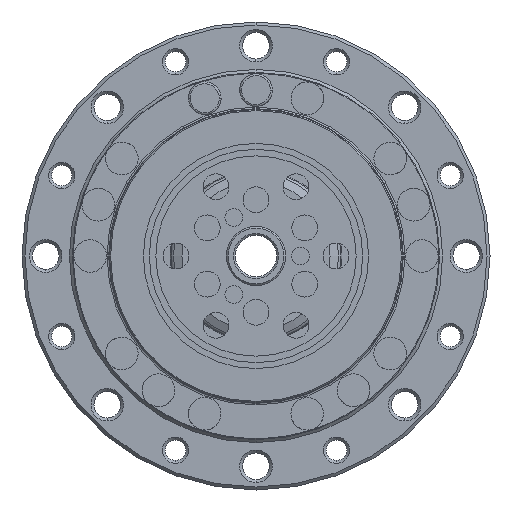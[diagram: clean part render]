
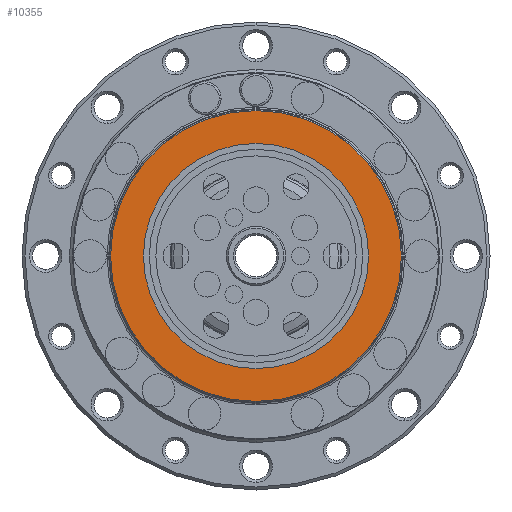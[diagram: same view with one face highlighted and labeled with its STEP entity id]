
A CAD part, front view. The second image highlights one B-rep face of the part: STEP entity #10355.
In plain terms, the highlighted planar face has unit normal (0, -1, 0).
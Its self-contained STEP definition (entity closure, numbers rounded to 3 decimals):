
#8541=CARTESIAN_POINT('',(0.,-16.,0.));
#8542=DIRECTION('',(0.,1.,0.));
#8543=DIRECTION('',(0.,0.,1.));
#8544=AXIS2_PLACEMENT_3D('',#8541,#8542,#8543);
#8549=CARTESIAN_POINT('',(0.,-16.,0.));
#8550=DIRECTION('',(0.,1.,0.));
#8551=DIRECTION('',(0.,0.,-1.));
#8552=AXIS2_PLACEMENT_3D('',#8549,#8550,#8551);
#8557=CARTESIAN_POINT('',(0.,-16.,0.));
#8558=DIRECTION('',(0.,-1.,0.));
#8559=DIRECTION('',(0.,0.,1.));
#8560=AXIS2_PLACEMENT_3D('',#8557,#8558,#8559);
#8565=CARTESIAN_POINT('',(0.,-16.,0.));
#8566=DIRECTION('',(0.,-1.,0.));
#8567=DIRECTION('',(0.,0.,-1.));
#8568=AXIS2_PLACEMENT_3D('',#8565,#8566,#8567);
#9612=CARTESIAN_POINT('',(0.,-16.,19.));
#9613=VERTEX_POINT('',#9612);
#9614=CARTESIAN_POINT('',(0.,-16.,-19.));
#9615=VERTEX_POINT('',#9614);
#9768=CARTESIAN_POINT('',(0.,-16.,24.55));
#9769=VERTEX_POINT('',#9768);
#9770=CARTESIAN_POINT('',(0.,-16.,-24.55));
#9771=VERTEX_POINT('',#9770);
#10341=CARTESIAN_POINT('',(-21.75,-16.,0.));
#10342=DIRECTION('',(0.,-1.,0.));
#10343=DIRECTION('',(0.,0.,-1.));
#10344=AXIS2_PLACEMENT_3D('',#10341,#10342,#10343);
#10345=PLANE('',#10344);
#10346=ORIENTED_EDGE('',*,*,#10335,.T.);
#10347=ORIENTED_EDGE('',*,*,#10321,.T.);
#10348=EDGE_LOOP('',(#10346,#10347));
#10349=FACE_OUTER_BOUND('',#10348,.F.);
#10351=ORIENTED_EDGE('',*,*,#10350,.T.);
#10352=ORIENTED_EDGE('',*,*,#9925,.T.);
#10353=EDGE_LOOP('',(#10351,#10352));
#10354=FACE_BOUND('',#10353,.F.);
#8545=CIRCLE('',#8544,24.55);
#8553=CIRCLE('',#8552,24.55);
#8561=CIRCLE('',#8560,19.);
#8569=CIRCLE('',#8568,19.);
#9925=EDGE_CURVE('',#9615,#9613,#8569,.T.);
#10321=EDGE_CURVE('',#9771,#9769,#8553,.T.);
#10335=EDGE_CURVE('',#9769,#9771,#8545,.T.);
#10350=EDGE_CURVE('',#9613,#9615,#8561,.T.);
#10355=ADVANCED_FACE('',(#10349,#10354),#10345,.T.);
